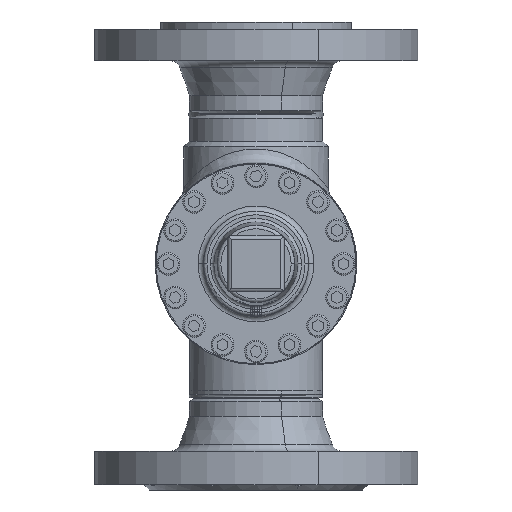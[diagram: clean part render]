
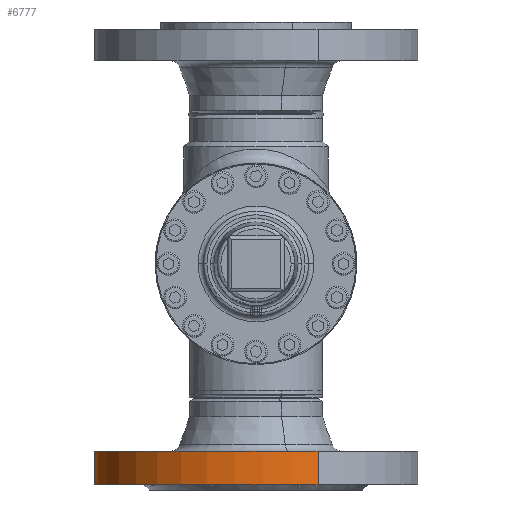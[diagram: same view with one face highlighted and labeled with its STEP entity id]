
A CAD part, front view. The second image highlights one B-rep face of the part: STEP entity #6777.
In plain terms, the highlighted cylindrical face has radius 92.5 mm (diameter 185 mm), a partial arc.
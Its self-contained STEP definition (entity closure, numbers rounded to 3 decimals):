
#1936 = CARTESIAN_POINT ( 'NONE',  ( -92.5, 22., 0. ) ) ;
#2195 = CIRCLE ( 'NONE', #2196, 92.5 ) ;
#2196 = AXIS2_PLACEMENT_3D ( 'NONE', #2216, #2217, #2218 ) ;
#2216 = CARTESIAN_POINT ( 'NONE',  ( 0., 22., 0. ) ) ;
#2217 = DIRECTION ( 'NONE',  ( 0., 1., 0. ) ) ;
#2218 = DIRECTION ( 'NONE',  ( -1., 0., 0. ) ) ;
#35566 = CARTESIAN_POINT ( 'NONE',  ( 92.5, 3., 0. ) ) ;
#37462 = CARTESIAN_POINT ( 'NONE',  ( -92.5, 3., 0. ) ) ;
#37575 = CIRCLE ( 'NONE', #37576, 92.5 ) ;
#37576 = AXIS2_PLACEMENT_3D ( 'NONE', #37577, #37578, #37579 ) ;
#37577 = CARTESIAN_POINT ( 'NONE',  ( 0., 3., 0. ) ) ;
#37578 = DIRECTION ( 'NONE',  ( 0., 1., 0. ) ) ;
#37579 = DIRECTION ( 'NONE',  ( -1., 0., 0. ) ) ;
#6670 = ORIENTED_EDGE ( 'NONE', *, *, #14534, .F. ) ;
#6777 = ADVANCED_FACE ( 'NONE', ( #28894 ), #28895, .T. ) ;
#7683 = VERTEX_POINT ( 'NONE', #29844 ) ;
#8129 = EDGE_CURVE ( 'NONE', #9878, #7683, #30137, .T. ) ;
#8861 = ORIENTED_EDGE ( 'NONE', *, *, #8129, .T. ) ;
#9878 = VERTEX_POINT ( 'NONE', #35566 ) ;
#10324 = VERTEX_POINT ( 'NONE', #37462 ) ;
#27093 = LINE ( 'NONE', #27094, #27095 ) ;
#27094 = CARTESIAN_POINT ( 'NONE',  ( -92.5, 75., 0. ) ) ;
#27095 = VECTOR ( 'NONE', #27096, 1000. ) ;
#27096 = DIRECTION ( 'NONE',  ( 0., 1., 0. ) ) ;
#10756 = EDGE_CURVE ( 'NONE', #10324, #9878, #37575, .T. ) ;
#27649 = EDGE_CURVE ( 'NONE', #10324, #14087, #27093, .T. ) ;
#11488 = ORIENTED_EDGE ( 'NONE', *, *, #10756, .T. ) ;
#12451 = EDGE_LOOP ( 'NONE', ( #11488, #8861, #6670, #13073 ) ) ;
#28894 = FACE_OUTER_BOUND ( 'NONE', #12451, .T. ) ;
#28895 = CYLINDRICAL_SURFACE ( 'NONE', #28896, 92.5 ) ;
#28896 = AXIS2_PLACEMENT_3D ( 'NONE', #28897, #28923, #28924 ) ;
#28897 = CARTESIAN_POINT ( 'NONE',  ( 0., 75., 0. ) ) ;
#28923 = DIRECTION ( 'NONE',  ( 0., 1., 0. ) ) ;
#28924 = DIRECTION ( 'NONE',  ( -1., 0., 0. ) ) ;
#13073 = ORIENTED_EDGE ( 'NONE', *, *, #27649, .F. ) ;
#29844 = CARTESIAN_POINT ( 'NONE',  ( 92.5, 22., 0. ) ) ;
#30137 = LINE ( 'NONE', #30138, #30139 ) ;
#30138 = CARTESIAN_POINT ( 'NONE',  ( 92.5, 75., 0. ) ) ;
#30139 = VECTOR ( 'NONE', #30140, 1000. ) ;
#30140 = DIRECTION ( 'NONE',  ( 0., 1., 0. ) ) ;
#14087 = VERTEX_POINT ( 'NONE', #1936 ) ;
#14534 = EDGE_CURVE ( 'NONE', #14087, #7683, #2195, .T. ) ;
